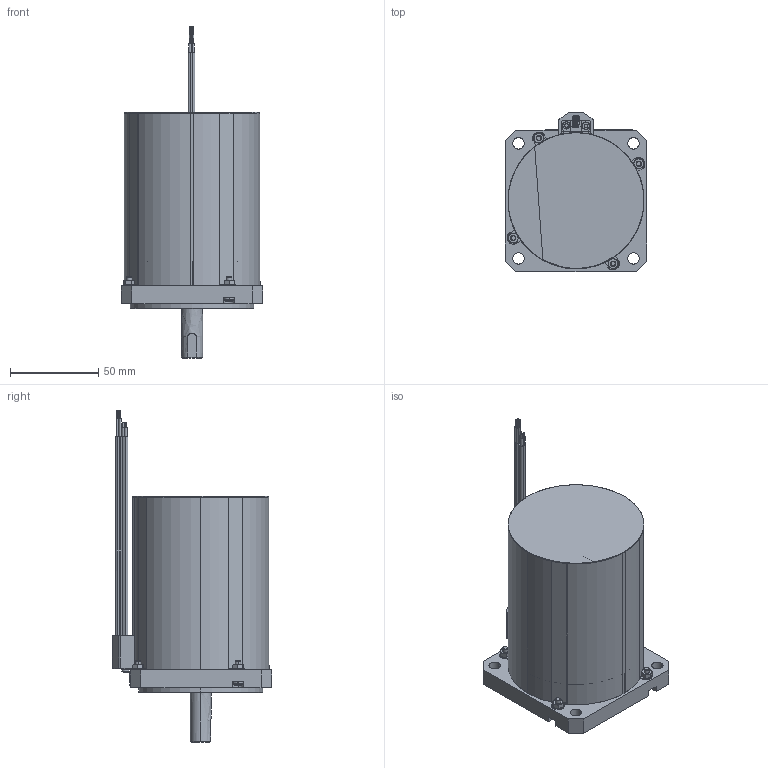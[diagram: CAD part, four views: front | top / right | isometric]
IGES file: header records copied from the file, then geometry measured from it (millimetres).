
Start section: SolidWorks IGES file using analytic representation for surfaces
Bounding box: 80 x 90.05 x 187.7 mm (x, y, z)
Surface area: 63468.4 mm2 (no closed solid volume)
Topology: 0 solids, 0 shells, 845 faces, 10574 edges, 10568 vertices
Faces by surface type: bspline 430, revolution 415
